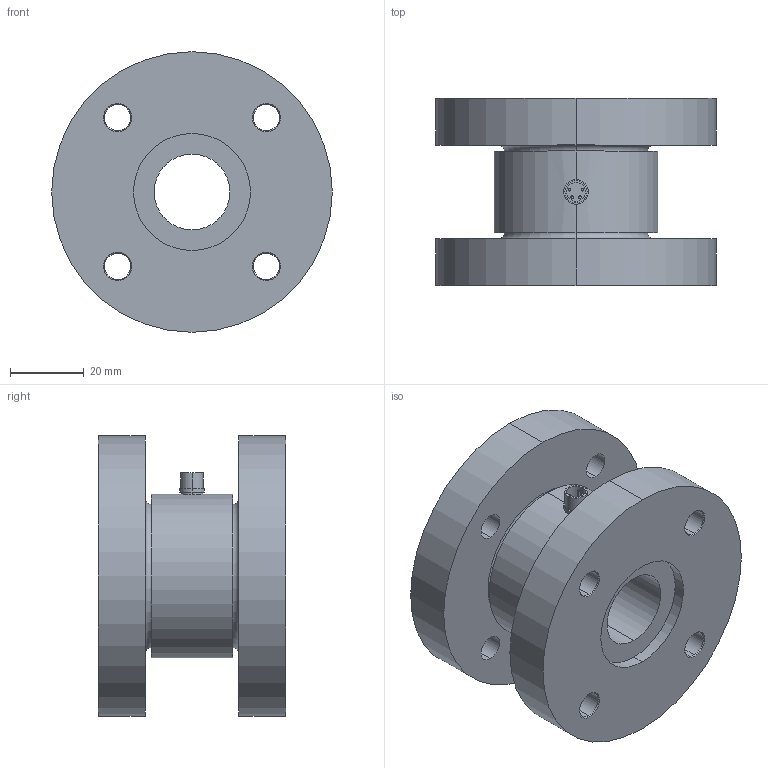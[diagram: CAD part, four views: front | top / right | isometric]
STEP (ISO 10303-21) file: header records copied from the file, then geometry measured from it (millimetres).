
FILE_DESCRIPTION (( 'STEP AP203' ), '1' );
FILE_NAME ('FINAL ASBY SS1325-2K IN-LB.STEP', '2023-01-05T16:20:01', ( '' ), ( '' ), 'SwSTEP 2.0', 'SolidWorks 2008', '' );
FILE_SCHEMA (( 'CONFIG_CONTROL_DESIGN' ));
Length unit declared in the file: inch
Products named in the file (1): FINAL ASBY SS1325-2K IN-LB
Bounding box: 76.2 x 50.8 x 76.2 mm (x, y, z)
Volume: 130365.2 mm3; surface area: 30683.7 mm2
Topology: 1 solids, 1 shells, 80 faces, 179 edges, 114 vertices
Faces by surface type: cylinder 44, cone 16, plane 12, torus 4, bspline 4
Entity records: 3052 total; most frequent: CARTESIAN_POINT 1086, DIRECTION 427, ORIENTED_EDGE 358, AXIS2_PLACEMENT_3D 183, EDGE_CURVE 179, VERTEX_POINT 114, EDGE_LOOP 111, CIRCLE 106
